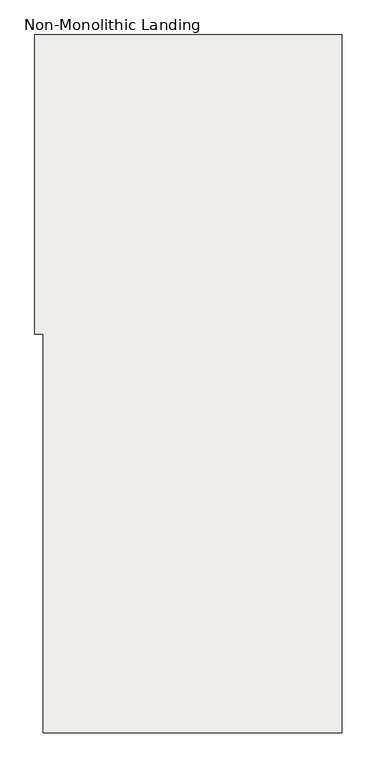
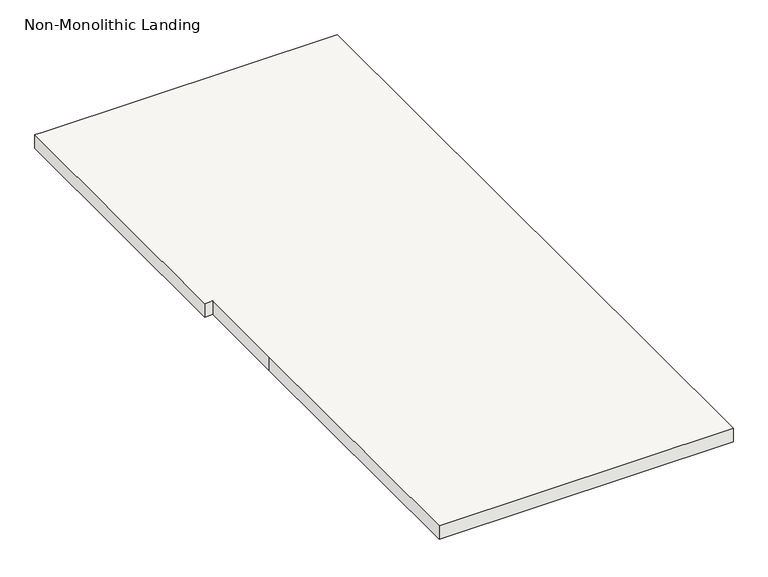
"""IFC4 building model written with IfcOpenShell, lengths in millimetres: slab geometry, Non-Monolithic Landing."""

from ifc_helpers import new_model, si_unit, frame, origin, place, context, project, spatial, polyline, outline, extrude, source, transform, mapped, element, save


def non_monolithic_landing_c05d15c3(model_context):
    return source(origin(), model_context, "Body", "SweptSolid", [
        extrude(outline(polyline([(-16004.0481446, -4273.6871906), (-16004.0481446, -3968.8871906), (-16029.4481446, -3968.8871906), (-16029.4481446, -3054.4871906), (-16004.0481446, -3054.4871906), (-15089.6481446, -3054.4871906), (-15089.6481446, -5188.0871906), (-16004.0481446, -5188.0871906), (-16004.0481446, -4273.6871906)])), frame((0.0, 0.0, 1479.55), z_axis=(0.0, 0.0, 1.0), x_axis=(1.0, 0.0, 0.0)), (0.0, 0.0, 1.0), 44.45),
    ])


if __name__ == "__main__":
    model = new_model("IFC4")
    model_context = context("Model", 3, world=origin())
    ifc_project = project(units=[si_unit("LENGTHUNIT", "METRE", prefix="MILLI")], contexts=[model_context])
    site = spatial("IfcSite", under=ifc_project)
    building = spatial("IfcBuilding", under=site)
    placement = place(None, origin())
    non_monolithic_landing_shape = non_monolithic_landing_c05d15c3(model_context)
    element("IfcSlab", 1, ObjectType="Non-Monolithic Landing", at=placement, inside=building, context=model_context, shape_type="MappedRepresentation", body=[
        mapped(non_monolithic_landing_shape, transform((0.0, 0.0, 0.0), x_axis=(1.0, 0.0, 0.0), y_axis=(0.0, 1.0, 0.0), z_axis=(0.0, 0.0, 1.0))),
    ])
    save(model, "model.ifc")
